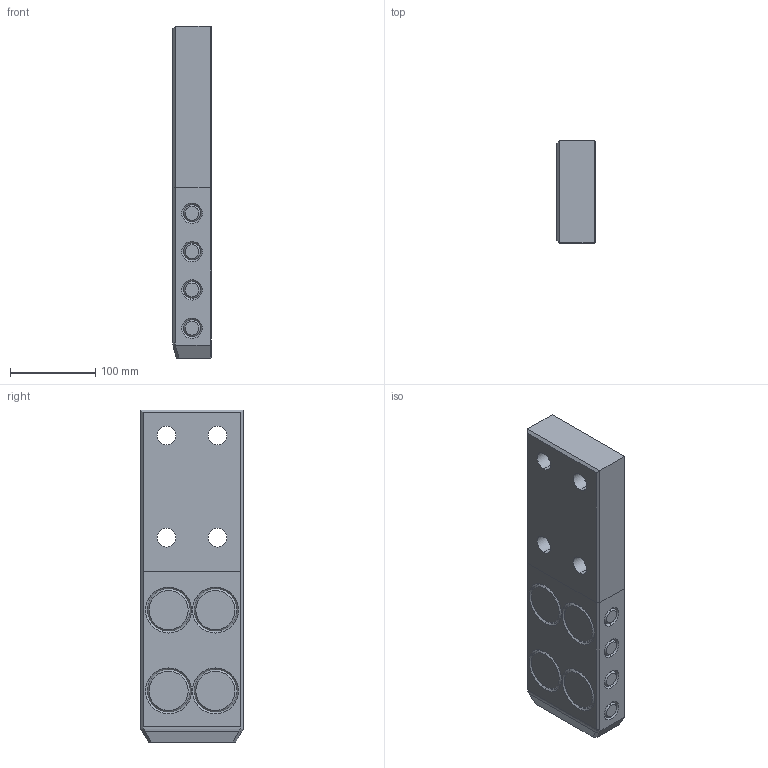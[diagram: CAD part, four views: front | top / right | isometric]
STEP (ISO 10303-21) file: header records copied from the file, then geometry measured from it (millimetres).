
FILE_DESCRIPTION((''),'2;1');
FILE_NAME('','2010-08-30T19:11:35+09:00',('misumi'),(''),'M/STEP i/f 1R2-14','CADmeister v5.1','');
FILE_SCHEMA(('AUTOMOTIVE_DESIGN'));
Length unit declared in the file: millimetre
Products named in the file (1): OGZ120-390
Bounding box: 45 x 120 x 390 mm (x, y, z)
Volume: 1978668.8 mm3; surface area: 151211.4 mm2
Topology: 1 solids, 1 shells, 113 faces, 242 edges, 148 vertices
Faces by surface type: cone 48, plane 42, cylinder 19, bspline 4
Entity records: 4114 total; most frequent: CARTESIAN_POINT 1560, DIRECTION 524, ORIENTED_EDGE 484, EDGE_CURVE 242, AXIS2_PLACEMENT_3D 202, VERTEX_POINT 148, EDGE_LOOP 138, LINE 120
